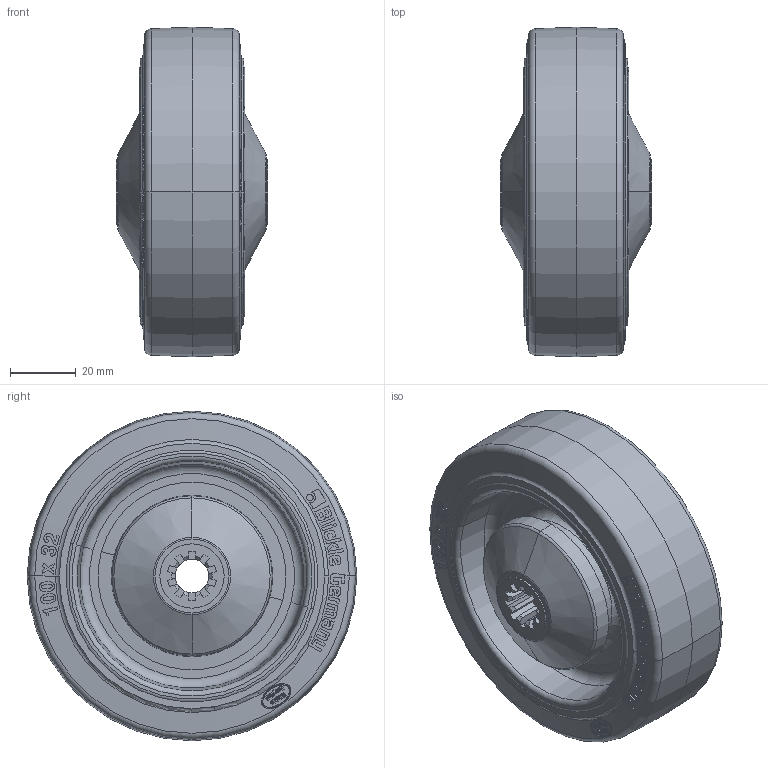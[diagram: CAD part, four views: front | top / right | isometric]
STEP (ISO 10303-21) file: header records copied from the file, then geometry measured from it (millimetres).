
FILE_DESCRIPTION (( 'STEP AP214' ), '1' );
FILE_NAME ('POEV_100_10K-SB_615187-214.step', '2021-10-23T08:22:28', ( '' ), ( '' ), 'SwSTEP 2.0', 'SolidWorks 2018', '' );
FILE_SCHEMA (( 'AUTOMOTIVE_DESIGN' ));
Length unit declared in the file: millimetre
Products named in the file (2): POEV_100_10K-SB_615187-214; POEV_100_10K-SB_G16_3D
Assembly tree (1 placements, depth 2):
  POEV_100_10K-SB_615187-214
    POEV_100_10K-SB_G16_3D
Bounding box: 46 x 100 x 100 mm (x, y, z)
Volume: 169122.2 mm3; surface area: 53644.7 mm2
Topology: 1 solids, 7 shells, 1716 faces, 4540 edges, 2962 vertices
Faces by surface type: bspline 758, plane 632, cone 178, torus 78, cylinder 70
Entity records: 67454 total; most frequent: CARTESIAN_POINT 27958, ORIENTED_EDGE 9080, DIRECTION 4838, EDGE_CURVE 4540, VERTEX_POINT 2962, LINE 2010, VECTOR 2010, EDGE_LOOP 1854
